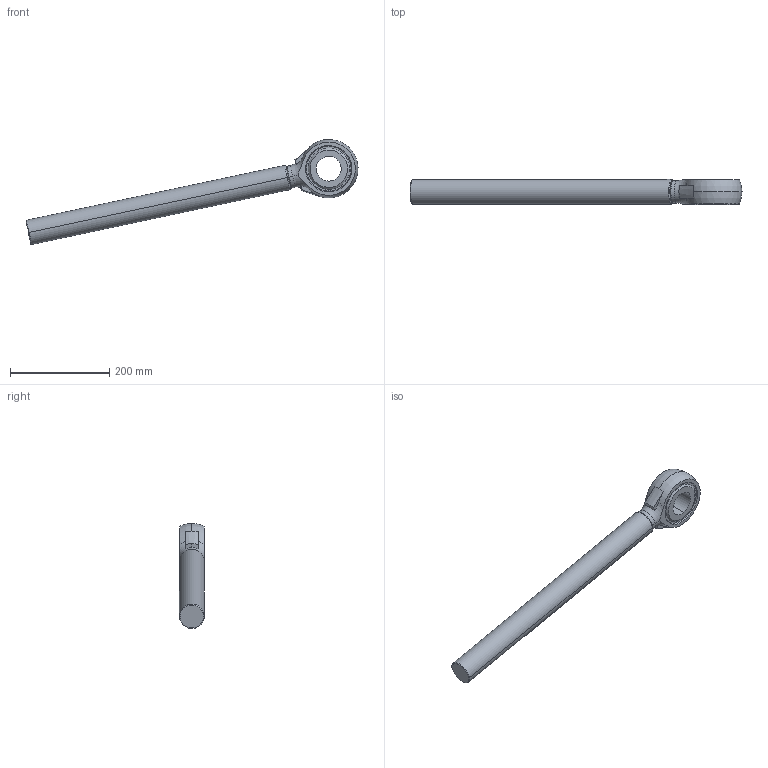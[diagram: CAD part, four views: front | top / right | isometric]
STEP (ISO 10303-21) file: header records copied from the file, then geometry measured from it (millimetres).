
FILE_DESCRIPTION (( 'STEP AP214' ), '1' );
FILE_NAME ('IRB6720_160kg-320_OC_00_ROD_CAD.step', '2026-06-10T10:40:55', ( '' ), ( '' ), 'SwSTEP 2.0', 'SolidWorks 2024', '' );
FILE_SCHEMA (( 'AUTOMOTIVE_DESIGN' ));
Length unit declared in the file: millimetre
Products named in the file (1): IRB6720_160kg-320_OC_00_ROD_CAD
Bounding box: 669.36 x 50.5 x 211.83 mm (x, y, z)
Volume: 1512340.6 mm3; surface area: 135243.1 mm2
Topology: 1 solids, 1 shells, 58 faces, 132 edges, 81 vertices
Faces by surface type: cylinder 17, plane 16, torus 12, cone 11, sphere 2
Entity records: 1889 total; most frequent: CARTESIAN_POINT 540, DIRECTION 304, ORIENTED_EDGE 264, AXIS2_PLACEMENT_3D 137, EDGE_CURVE 132, VERTEX_POINT 81, CIRCLE 78, EDGE_LOOP 65
